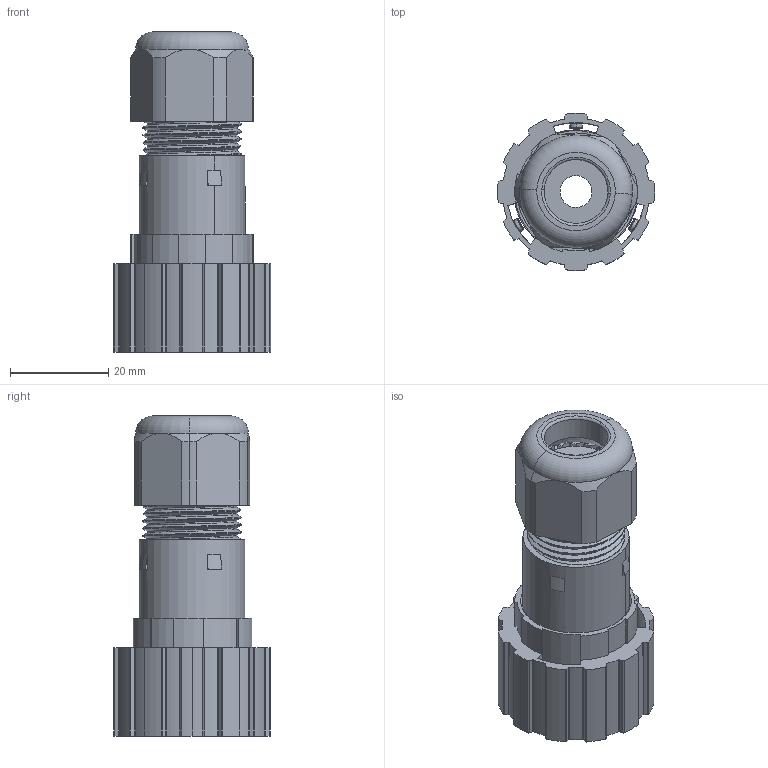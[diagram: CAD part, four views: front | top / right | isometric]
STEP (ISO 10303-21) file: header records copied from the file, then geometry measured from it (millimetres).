
FILE_DESCRIPTION (( 'STEP AP203' ), '1' );
FILE_NAME ('GT2F1410.STEP', '2016-06-29T03:05:38', ( '' ), ( '' ), 'SwSTEP 2.0', 'SolidWorks 2012', '' );
FILE_SCHEMA (( 'CONFIG_CONTROL_DESIGN' ));
Length unit declared in the file: millimetre
Products named in the file (6): GT2F1410; 652F1-00110; 66154-00050; 652F1-00010; 602F1-X8101; 662F1-4ZA01
Assembly tree (5 placements, depth 2):
  GT2F1410
    662F1-4ZA01
    602F1-X8101
    652F1-00010
    66154-00050
    652F1-00110
Bounding box: 31.99 x 31.97 x 65.2 mm (x, y, z)
Volume: 16139.2 mm3; surface area: 17683.5 mm2
Topology: 5 solids, 5 shells, 501 faces, 1367 edges, 886 vertices
Faces by surface type: plane 188, cylinder 173, bspline 83, cone 43, torus 14
Entity records: 20567 total; most frequent: CARTESIAN_POINT 7832, ORIENTED_EDGE 2734, DIRECTION 2350, EDGE_CURVE 1367, AXIS2_PLACEMENT_3D 918, VERTEX_POINT 886, EDGE_LOOP 527, LINE 514
